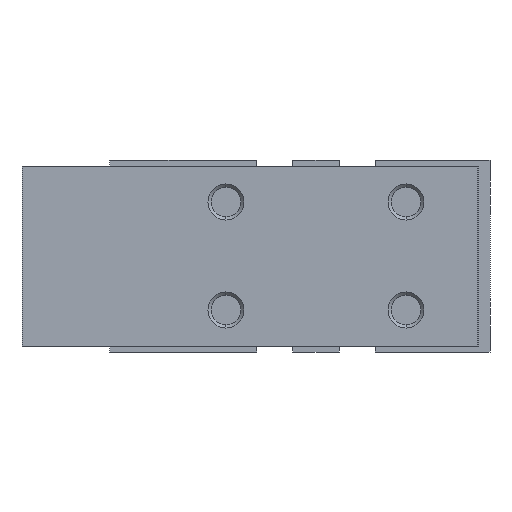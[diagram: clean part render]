
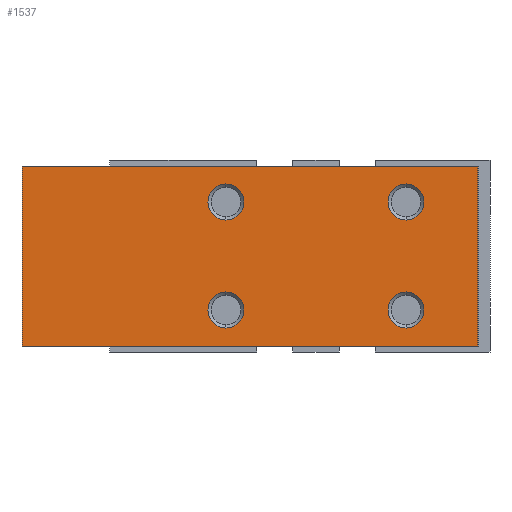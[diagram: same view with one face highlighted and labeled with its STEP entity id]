
A CAD part, left-side view. The second image highlights one B-rep face of the part: STEP entity #1537.
In plain terms, the highlighted planar face has unit normal (-1, 0, 0).
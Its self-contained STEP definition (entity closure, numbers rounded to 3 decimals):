
#62 = CARTESIAN_POINT ( 'NONE',  ( -8.5, -7.5, 4.5 ) ) ;
#163 = FACE_OUTER_BOUND ( 'NONE', #2441, .T. ) ;
#479 = CARTESIAN_POINT ( 'NONE',  ( -8.5, -13.5, 7.5 ) ) ;
#507 = ORIENTED_EDGE ( 'NONE', *, *, #2384, .F. ) ;
#532 = CARTESIAN_POINT ( 'NONE',  ( -8.5, 24.5, 7.5 ) ) ;
#578 = VERTEX_POINT ( 'NONE', #5044 ) ;
#620 = FACE_BOUND ( 'NONE', #5493, .T. ) ;
#644 = EDGE_LOOP ( 'NONE', ( #4184, #4071 ) ) ;
#718 = CARTESIAN_POINT ( 'NONE',  ( -8.5, 7.5, 4.5 ) ) ;
#782 = CIRCLE ( 'NONE', #4854, 1.5 ) ;
#852 = CARTESIAN_POINT ( 'NONE',  ( -8.5, 7.5, 3. ) ) ;
#885 = LINE ( 'NONE', #2741, #5436 ) ;
#973 = EDGE_CURVE ( 'NONE', #5738, #578, #3292, .T. ) ;
#990 = CIRCLE ( 'NONE', #5258, 1.5 ) ;
#1047 = DIRECTION ( 'NONE',  ( -1., 0., 0. ) ) ;
#1056 = CARTESIAN_POINT ( 'NONE',  ( -8.5, -7.5, -4.5 ) ) ;
#1077 = CARTESIAN_POINT ( 'NONE',  ( -8.5, -7.5, -4.5 ) ) ;
#1140 = DIRECTION ( 'NONE',  ( 0., 0., 1. ) ) ;
#1189 = AXIS2_PLACEMENT_3D ( 'NONE', #1056, #4688, #1508 ) ;
#1235 = DIRECTION ( 'NONE',  ( -1., 0., 0. ) ) ;
#1239 = CARTESIAN_POINT ( 'NONE',  ( -8.5, 7.5, 6. ) ) ;
#1388 = DIRECTION ( 'NONE',  ( 0., 0., -1. ) ) ;
#1396 = DIRECTION ( 'NONE',  ( 0., 0., 1. ) ) ;
#1430 = DIRECTION ( 'NONE',  ( -1., 0., 0. ) ) ;
#1471 = EDGE_CURVE ( 'NONE', #2088, #4446, #4435, .T. ) ;
#1508 = DIRECTION ( 'NONE',  ( 0., 0., 1. ) ) ;
#1537 = ADVANCED_FACE ( 'NONE', ( #163, #2931, #4778, #620, #2467 ), #5734, .F. ) ;
#1624 = DIRECTION ( 'NONE',  ( 0., 0., 1. ) ) ;
#1671 = AXIS2_PLACEMENT_3D ( 'NONE', #2635, #1235, #5880 ) ;
#1713 = DIRECTION ( 'NONE',  ( -1., 0., 0. ) ) ;
#1754 = EDGE_CURVE ( 'NONE', #4375, #2066, #990, .T. ) ;
#1802 = ORIENTED_EDGE ( 'NONE', *, *, #3679, .F. ) ;
#1989 = VECTOR ( 'NONE', #1388, 1000. ) ;
#2039 = ORIENTED_EDGE ( 'NONE', *, *, #2948, .T. ) ;
#2058 = AXIS2_PLACEMENT_3D ( 'NONE', #3122, #3542, #2173 ) ;
#2066 = VERTEX_POINT ( 'NONE', #2645 ) ;
#2088 = VERTEX_POINT ( 'NONE', #4272 ) ;
#2116 = CIRCLE ( 'NONE', #5315, 1.5 ) ;
#2173 = DIRECTION ( 'NONE',  ( 0., 0., 1. ) ) ;
#2221 = CARTESIAN_POINT ( 'NONE',  ( -8.5, 7.5, -3. ) ) ;
#2283 = VERTEX_POINT ( 'NONE', #2608 ) ;
#2298 = EDGE_CURVE ( 'NONE', #4143, #5001, #5846, .T. ) ;
#2384 = EDGE_CURVE ( 'NONE', #5399, #4401, #4666, .T. ) ;
#2441 = EDGE_LOOP ( 'NONE', ( #2039, #3928, #1802, #5681 ) ) ;
#2467 = FACE_BOUND ( 'NONE', #4081, .T. ) ;
#2479 = DIRECTION ( 'NONE',  ( 0., 0., 1. ) ) ;
#2555 = CIRCLE ( 'NONE', #1189, 1.5 ) ;
#2608 = CARTESIAN_POINT ( 'NONE',  ( -8.5, -13.5, 7.5 ) ) ;
#2635 = CARTESIAN_POINT ( 'NONE',  ( -8.5, 7.5, -4.5 ) ) ;
#2645 = CARTESIAN_POINT ( 'NONE',  ( -8.5, -7.5, 6. ) ) ;
#2680 = CIRCLE ( 'NONE', #4225, 1.5 ) ;
#2741 = CARTESIAN_POINT ( 'NONE',  ( -8.5, 24.5, 7.5 ) ) ;
#2790 = LINE ( 'NONE', #479, #1989 ) ;
#2850 = CARTESIAN_POINT ( 'NONE',  ( -8.5, 24.5, -7.5 ) ) ;
#2931 = FACE_BOUND ( 'NONE', #644, .T. ) ;
#2948 = EDGE_CURVE ( 'NONE', #578, #3828, #3401, .T. ) ;
#2955 = ORIENTED_EDGE ( 'NONE', *, *, #5986, .F. ) ;
#3001 = CARTESIAN_POINT ( 'NONE',  ( -8.5, -7.5, 4.5 ) ) ;
#3122 = CARTESIAN_POINT ( 'NONE',  ( -8.5, 7.5, 4.5 ) ) ;
#3263 = VECTOR ( 'NONE', #4750, 1000. ) ;
#3272 = DIRECTION ( 'NONE',  ( 0., -1., 0. ) ) ;
#3292 = LINE ( 'NONE', #4783, #3263 ) ;
#3368 = AXIS2_PLACEMENT_3D ( 'NONE', #1077, #1430, #1396 ) ;
#3392 = DIRECTION ( 'NONE',  ( 1., 0., 0. ) ) ;
#3401 = LINE ( 'NONE', #2850, #4540 ) ;
#3407 = EDGE_CURVE ( 'NONE', #4401, #5399, #782, .T. ) ;
#3542 = DIRECTION ( 'NONE',  ( -1., 0., 0. ) ) ;
#3679 = EDGE_CURVE ( 'NONE', #5738, #2283, #885, .T. ) ;
#3736 = ORIENTED_EDGE ( 'NONE', *, *, #1754, .F. ) ;
#3828 = VERTEX_POINT ( 'NONE', #4836 ) ;
#3898 = CARTESIAN_POINT ( 'NONE',  ( -8.5, -7.5, -6. ) ) ;
#3901 = ORIENTED_EDGE ( 'NONE', *, *, #3407, .F. ) ;
#3928 = ORIENTED_EDGE ( 'NONE', *, *, #4049, .F. ) ;
#3968 = DIRECTION ( 'NONE',  ( -1., 0., 0. ) ) ;
#4049 = EDGE_CURVE ( 'NONE', #2283, #3828, #2790, .T. ) ;
#4071 = ORIENTED_EDGE ( 'NONE', *, *, #2298, .F. ) ;
#4081 = EDGE_LOOP ( 'NONE', ( #3901, #507 ) ) ;
#4143 = VERTEX_POINT ( 'NONE', #4732 ) ;
#4184 = ORIENTED_EDGE ( 'NONE', *, *, #4942, .F. ) ;
#4217 = DIRECTION ( 'NONE',  ( -1., 0., 0. ) ) ;
#4225 = AXIS2_PLACEMENT_3D ( 'NONE', #3001, #1047, #1140 ) ;
#4272 = CARTESIAN_POINT ( 'NONE',  ( -8.5, -7.5, -3. ) ) ;
#4375 = VERTEX_POINT ( 'NONE', #5309 ) ;
#4401 = VERTEX_POINT ( 'NONE', #1239 ) ;
#4435 = CIRCLE ( 'NONE', #3368, 1.5 ) ;
#4446 = VERTEX_POINT ( 'NONE', #3898 ) ;
#4540 = VECTOR ( 'NONE', #3272, 1000. ) ;
#4582 = DIRECTION ( 'NONE',  ( 0., -1., 0. ) ) ;
#4666 = CIRCLE ( 'NONE', #2058, 1.5 ) ;
#4678 = ORIENTED_EDGE ( 'NONE', *, *, #1471, .F. ) ;
#4688 = DIRECTION ( 'NONE',  ( -1., 0., 0. ) ) ;
#4702 = DIRECTION ( 'NONE',  ( 0., 0., 1. ) ) ;
#4732 = CARTESIAN_POINT ( 'NONE',  ( -8.5, 7.5, -6. ) ) ;
#4737 = EDGE_CURVE ( 'NONE', #2066, #4375, #2680, .T. ) ;
#4750 = DIRECTION ( 'NONE',  ( 0., 0., -1. ) ) ;
#4758 = DIRECTION ( 'NONE',  ( 0., 1., 0. ) ) ;
#4778 = FACE_BOUND ( 'NONE', #5628, .T. ) ;
#4783 = CARTESIAN_POINT ( 'NONE',  ( -8.5, 24.5, 7.5 ) ) ;
#4836 = CARTESIAN_POINT ( 'NONE',  ( -8.5, -13.5, -7.5 ) ) ;
#4854 = AXIS2_PLACEMENT_3D ( 'NONE', #718, #3968, #2479 ) ;
#4875 = CARTESIAN_POINT ( 'NONE',  ( -8.5, 7.5, -4.5 ) ) ;
#4887 = CARTESIAN_POINT ( 'NONE',  ( -8.5, 24.5, 7.5 ) ) ;
#4942 = EDGE_CURVE ( 'NONE', #5001, #4143, #2116, .T. ) ;
#5001 = VERTEX_POINT ( 'NONE', #2221 ) ;
#5044 = CARTESIAN_POINT ( 'NONE',  ( -8.5, 24.5, -7.5 ) ) ;
#5202 = AXIS2_PLACEMENT_3D ( 'NONE', #532, #3392, #4758 ) ;
#5258 = AXIS2_PLACEMENT_3D ( 'NONE', #62, #4217, #4702 ) ;
#5309 = CARTESIAN_POINT ( 'NONE',  ( -8.5, -7.5, 3. ) ) ;
#5315 = AXIS2_PLACEMENT_3D ( 'NONE', #4875, #1713, #1624 ) ;
#5399 = VERTEX_POINT ( 'NONE', #852 ) ;
#5436 = VECTOR ( 'NONE', #4582, 1000. ) ;
#5493 = EDGE_LOOP ( 'NONE', ( #4678, #2955 ) ) ;
#5628 = EDGE_LOOP ( 'NONE', ( #5835, #3736 ) ) ;
#5681 = ORIENTED_EDGE ( 'NONE', *, *, #973, .T. ) ;
#5734 = PLANE ( 'NONE',  #5202 ) ;
#5738 = VERTEX_POINT ( 'NONE', #4887 ) ;
#5835 = ORIENTED_EDGE ( 'NONE', *, *, #4737, .F. ) ;
#5846 = CIRCLE ( 'NONE', #1671, 1.5 ) ;
#5880 = DIRECTION ( 'NONE',  ( 0., 0., 1. ) ) ;
#5986 = EDGE_CURVE ( 'NONE', #4446, #2088, #2555, .T. ) ;
